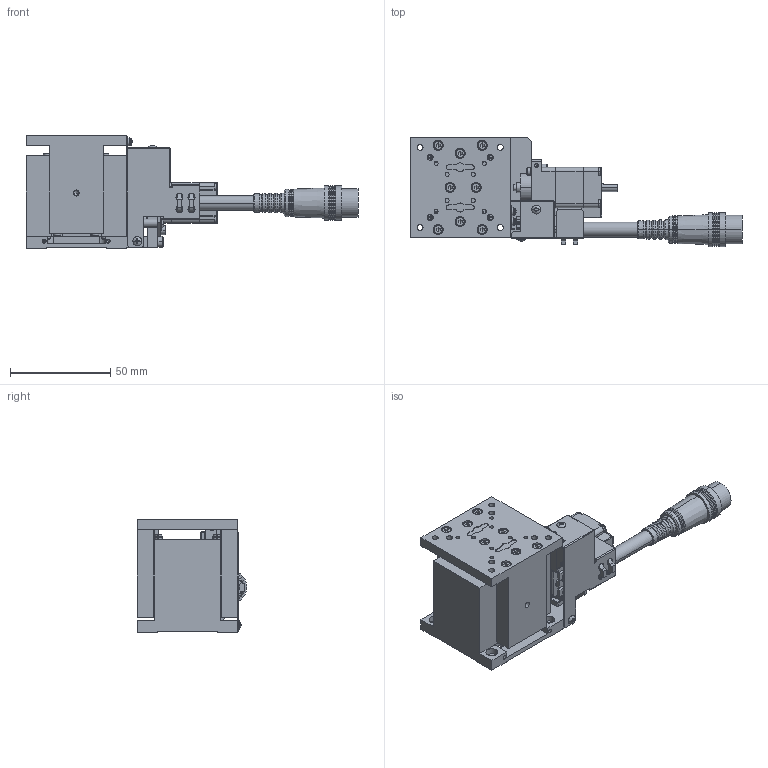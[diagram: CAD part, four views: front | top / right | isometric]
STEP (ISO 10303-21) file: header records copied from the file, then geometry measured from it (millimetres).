
FILE_DESCRIPTION (( 'STEP AP203' ), '1' );
FILE_NAME ('ZA05A-W101-R.STEP', '2019-02-21T00:44:23', ( '' ), ( '' ), 'SwSTEP 2.0', 'SolidWorks 2018', '' );
FILE_SCHEMA (( 'CONFIG_CONTROL_DESIGN' ));
Length unit declared in the file: millimetre
Products named in the file (6): table; base-Part-3; base-Part-1; base; base-Part-2; ZA05A-W101-R
Assembly tree (5 placements, depth 3):
  ZA05A-W101-R
    base
      base-Part-1
      base-Part-2
      base-Part-3
    table
Bounding box: 165.5 x 54.5 x 56 mm (x, y, z)
Volume: 140637.7 mm3; surface area: 51371.4 mm2
Topology: 4 solids, 7 shells, 1816 faces, 4433 edges, 2704 vertices
Faces by surface type: plane 1131, cylinder 389, cone 186, torus 98, sphere 12
Entity records: 52926 total; most frequent: DIRECTION 9334, CARTESIAN_POINT 9038, ORIENTED_EDGE 8678, EDGE_CURVE 4339, AXIS2_PLACEMENT_3D 3194, VECTOR 2946, LINE 2946, VERTEX_POINT 2694
